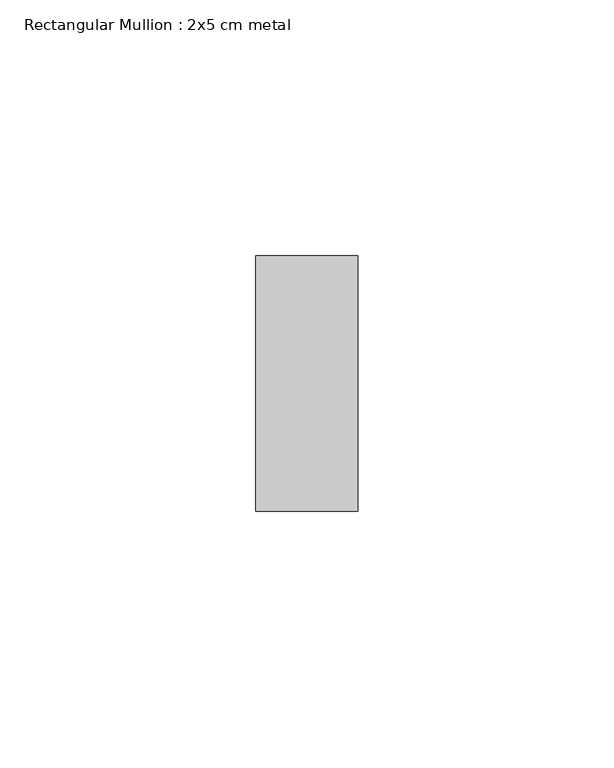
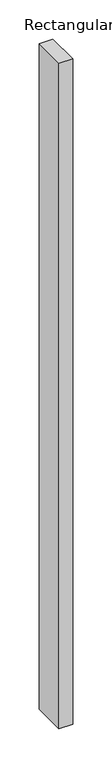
"""IFC4 building model written with IfcOpenShell, lengths in millimetres: member geometry, Rectangular Mullion : 2x5 cm metal."""

from ifc_helpers import new_model, si_unit, frame, origin, place, context, project, spatial, polyline, outline, extrude, source, transform, mapped, element, save


def rectangular_mullion_2x5_cm_metal_4cc5be9f(model_context):
    return source(origin(), model_context, "Body", "SweptSolid", [
        extrude(outline(polyline([(10.0, 25.0), (10.0, -25.0), (-10.0, -25.0), (-10.0, 25.0), (10.0, 25.0)])), frame((0.0, 0.0, -1034.2423059), z_axis=(0.0, 0.0, 1.0), x_axis=(1.0, 0.0, 0.0)), (0.0, 0.0, 1.0), 1034.2423059),
    ])


if __name__ == "__main__":
    model = new_model("IFC4")
    model_context = context("Model", 3, world=origin())
    ifc_project = project(units=[si_unit("LENGTHUNIT", "METRE", prefix="MILLI")], contexts=[model_context])
    site = spatial("IfcSite", under=ifc_project)
    building = spatial("IfcBuilding", under=site)
    placement = place(None, origin())
    rectangular_mullion_2x5_cm_metal_shape = rectangular_mullion_2x5_cm_metal_4cc5be9f(model_context)
    element("IfcMember", 1, ObjectType="Rectangular Mullion : 2x5 cm metal", at=placement, inside=building, context=model_context, shape_type="MappedRepresentation", body=[
        mapped(rectangular_mullion_2x5_cm_metal_shape, transform((0.0, 0.0, 0.0), x_axis=(1.0, 0.0, 0.0), y_axis=(0.0, 1.0, 0.0), z_axis=(0.0, 0.0, 1.0))),
    ])
    save(model, "model.ifc")
